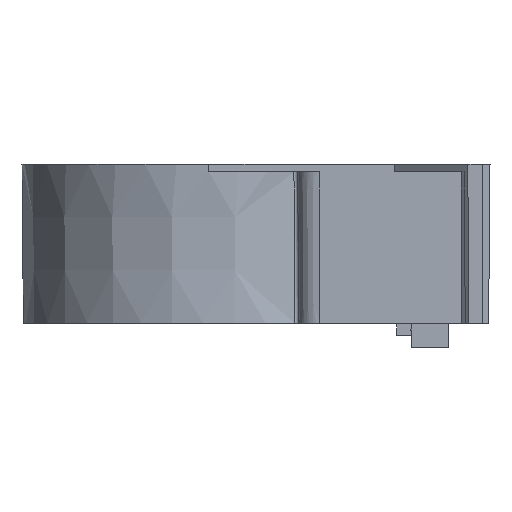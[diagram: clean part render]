
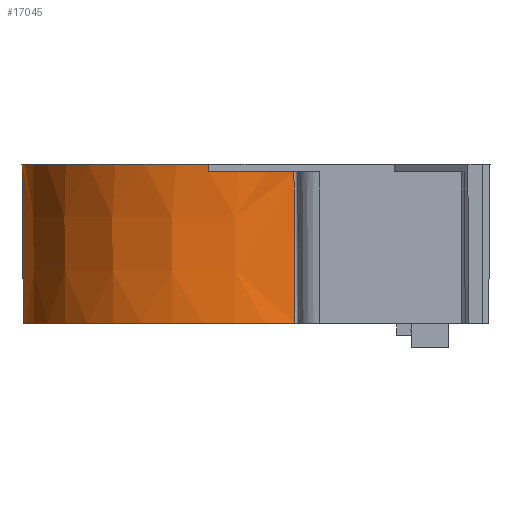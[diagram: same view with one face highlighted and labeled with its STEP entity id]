
A CAD part, left-side view. The second image highlights one B-rep face of the part: STEP entity #17045.
In plain terms, the highlighted conical face has half-angle 0.5 degrees and reference radius 35.5 mm.
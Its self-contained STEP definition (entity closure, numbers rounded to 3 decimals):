
#45=B_SPLINE_CURVE_WITH_KNOTS('',3,(#29678,#29679,#29680,#29681),
 .UNSPECIFIED.,.F.,.F.,(4,4),(0.,1.),.UNSPECIFIED.);
#184=CONICAL_SURFACE('',#22660,35.5,0.009);
#228=CIRCLE('',#22536,35.768);
#257=CIRCLE('',#22582,35.781);
#292=CIRCLE('',#22661,35.515);
#1639=ORIENTED_EDGE('',*,*,#6170,.F.);
#1640=ORIENTED_EDGE('',*,*,#5945,.T.);
#1641=ORIENTED_EDGE('',*,*,#6165,.T.);
#1642=ORIENTED_EDGE('',*,*,#6011,.F.);
#1643=ORIENTED_EDGE('',*,*,#5951,.F.);
#1644=ORIENTED_EDGE('',*,*,#6171,.F.);
#5945=EDGE_CURVE('',#8462,#8465,#228,.T.);
#5951=EDGE_CURVE('',#8469,#8470,#10254,.T.);
#6011=EDGE_CURVE('',#8470,#8518,#257,.T.);
#6165=EDGE_CURVE('',#8465,#8518,#10401,.T.);
#6170=EDGE_CURVE('',#8462,#8613,#45,.T.);
#6171=EDGE_CURVE('',#8613,#8469,#292,.T.);
#8462=VERTEX_POINT('',#29185);
#8465=VERTEX_POINT('',#29190);
#8469=VERTEX_POINT('',#29205);
#8470=VERTEX_POINT('',#29207);
#8518=VERTEX_POINT('',#29372);
#8613=VERTEX_POINT('',#29682);
#10254=LINE('',#29206,#12328);
#10401=LINE('',#29670,#12475);
#12328=VECTOR('',#24291,1000.);
#12475=VECTOR('',#24674,1000.);
#14267=EDGE_LOOP('',(#1639,#1640,#1641,#1642,#1643,#1644));
#15302=FACE_BOUND('',#14267,.T.);
#17045=ADVANCED_FACE('',(#15302),#184,.T.);
#22536=AXIS2_PLACEMENT_3D('',#29191,#24279,#24280);
#22582=AXIS2_PLACEMENT_3D('',#29371,#24402,#24403);
#22660=AXIS2_PLACEMENT_3D('',#29677,#24681,#24682);
#22661=AXIS2_PLACEMENT_3D('',#29683,#24683,#24684);
#24279=DIRECTION('',(0.,0.,-1.));
#24280=DIRECTION('',(0.,1.,0.));
#24291=DIRECTION('',(0.,0.009,1.));
#24402=DIRECTION('',(0.,0.,1.));
#24403=DIRECTION('',(0.,1.,0.));
#24674=DIRECTION('',(-0.009,0.,1.));
#24681=DIRECTION('',(0.,0.,1.));
#24682=DIRECTION('',(0.,1.,0.));
#24683=DIRECTION('',(0.,0.,-1.));
#24684=DIRECTION('',(0.,1.,0.));
#29185=CARTESIAN_POINT('',(-34.744,-8.05,13.777));
#29190=CARTESIAN_POINT('',(-38.659,8.221,13.777));
#29191=CARTESIAN_POINT('',(-2.891,8.221,13.777));
#29205=CARTESIAN_POINT('',(-2.891,43.737,-15.223));
#29206=CARTESIAN_POINT('',(-2.891,43.721,-16.973));
#29207=CARTESIAN_POINT('',(-2.891,44.002,15.227));
#29371=CARTESIAN_POINT('',(-2.891,8.221,15.227));
#29372=CARTESIAN_POINT('',(-38.672,8.221,15.227));
#29670=CARTESIAN_POINT('',(-38.391,8.221,-16.973));
#29677=CARTESIAN_POINT('',(-2.891,8.221,-16.973));
#29678=CARTESIAN_POINT('',(-34.744,-8.05,13.777));
#29679=CARTESIAN_POINT('',(-34.611,-8.116,3.657));
#29680=CARTESIAN_POINT('',(-34.482,-8.182,-6.01));
#29681=CARTESIAN_POINT('',(-34.356,-8.25,-15.223));
#29682=CARTESIAN_POINT('',(-34.355,-8.25,-15.223));
#29683=CARTESIAN_POINT('',(-2.891,8.221,-15.223));
